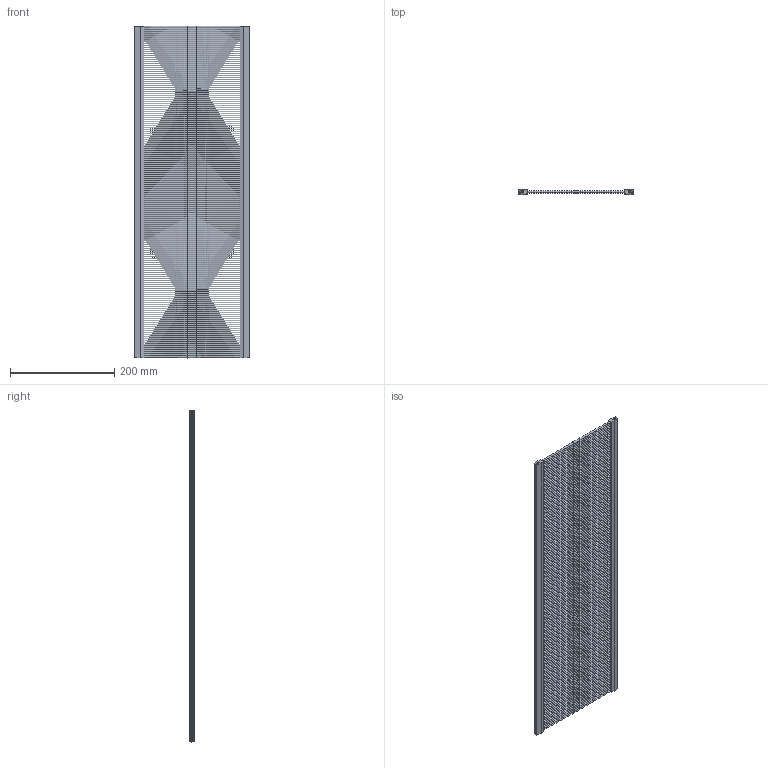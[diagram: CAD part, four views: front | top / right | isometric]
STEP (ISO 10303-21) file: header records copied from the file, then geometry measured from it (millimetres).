
FILE_DESCRIPTION(('Open CASCADE Model'),'2;1');
FILE_NAME('Open CASCADE Shape Model','2025-02-21T16:18:42',('Author'),( 'Open CASCADE'),'Open CASCADE STEP processor 7.8','Open CASCADE 7.8' ,'Unknown');
FILE_SCHEMA(('AUTOMOTIVE_DESIGN { 1 0 10303 214 1 1 1 1 }'));
Length unit declared in the file: millimetre
Products named in the file (2): Compound1; Solid1
Assembly tree (2 placements, depth 2):
  Compound1
    Solid1  x2
Bounding box: 220 x 9.5 x 635.89 mm (x, y, z)
Volume: 506588.9 mm3; surface area: 436168.8 mm2
Topology: 2 solids, 2 shells, 358 faces, 2046 edges, 1360 vertices
Faces by surface type: cone 330, plane 28
Entity records: 17872 total; most frequent: CARTESIAN_POINT 9430, ORIENTED_EDGE 2046, DIRECTION 1718, EDGE_CURVE 1023, AXIS2_PLACEMENT_3D 842, VERTEX_POINT 680, CIRCLE 660, FACE_BOUND 343
